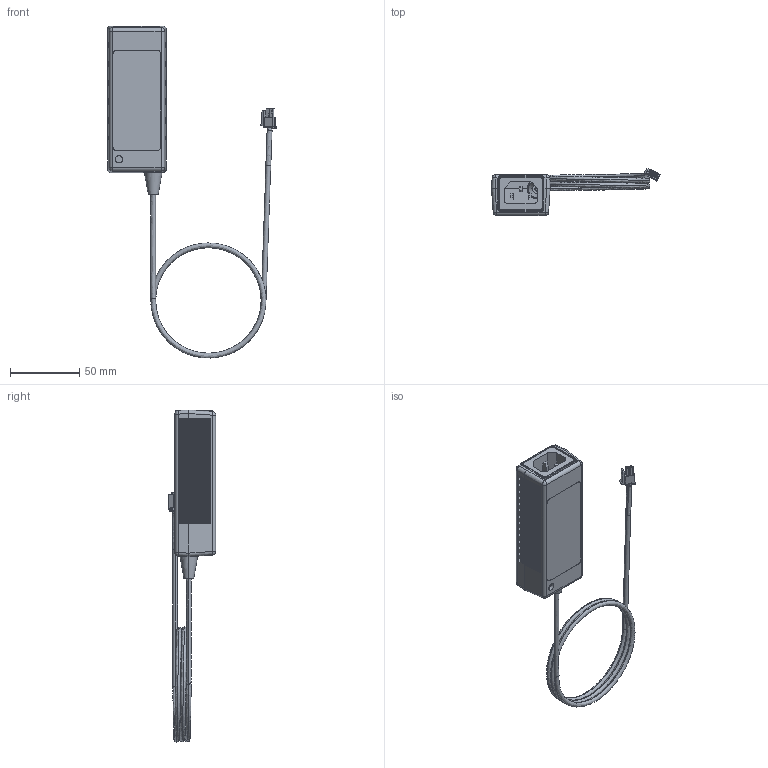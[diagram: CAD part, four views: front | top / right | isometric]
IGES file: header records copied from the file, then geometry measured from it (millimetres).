
Start section: SolidWorks IGES file using analytic representation for surfaces
Global section: file name: N:\POR\Eng\SolidWorksVault\FILES_DAN_LEWIS\Catalog files\OBIS Coherent web site\OBIS Power Supply\OBIS Power Supply.IGS; native system: SolidWorks 2012; preprocessor: SolidWorks 2012; author: lewisd; date: 120118.104309; units: inch
Bounding box: 121.89 x 34.19 x 239.6 mm (x, y, z)
Surface area: 37587.2 mm2 (no closed solid volume)
Topology: 0 solids, 0 shells, 710 faces, 6669 edges, 6669 vertices
Faces by surface type: bspline 619, revolution 91
